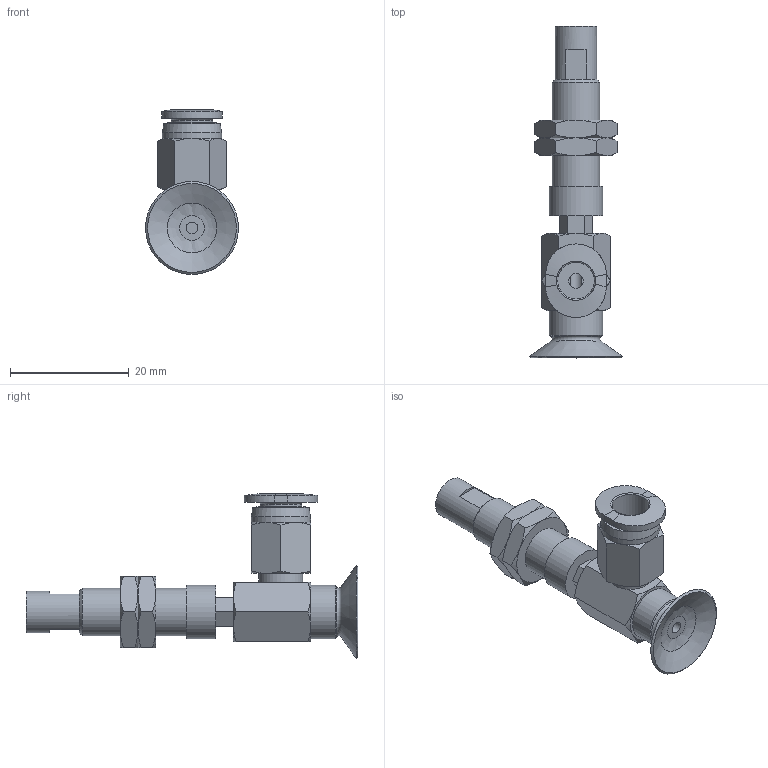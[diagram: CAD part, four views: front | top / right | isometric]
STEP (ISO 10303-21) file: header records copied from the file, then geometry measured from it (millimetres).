
FILE_DESCRIPTION(('STEP AP203'),'1');
FILE_NAME('-O.stp','2025-04-10T07:31:18',(' '),(' '),'Spatial InterOp 3D',' ',' ');
FILE_SCHEMA(('CONFIG_CONTROL_DESIGN'));
Length unit declared in the file: millimetre
Products named in the file (7): BNABPFYH-15A-3-※-O; CONNECTOR-H-15A-3; Nut-15A-3-h; NAPFTH-15A-3-FBODY; NAPFTH-15A-3-MBODY; BPFG-15A-※; PC-C_06-M5
Assembly tree (7 placements, depth 2):
  BNABPFYH-15A-3-※-O
    CONNECTOR-H-15A-3
    Nut-15A-3-h  x2
    NAPFTH-15A-3-FBODY
    NAPFTH-15A-3-MBODY
    BPFG-15A-※
    PC-C_06-M5
Bounding box: 15.7 x 56 x 27.83 mm (x, y, z)
Volume: 3498.5 mm3; surface area: 5386.8 mm2
Topology: 6 solids, 9 shells, 190 faces, 403 edges, 245 vertices
Faces by surface type: plane 80, cone 67, cylinder 24, torus 11, bspline 5, revolution 3
Full cylindrical faces by diameter (mm): 2 x2, 4 x4, 4.134 x2, 5 x2, 6 x2, 7 x2, 7.188 x2, 7.4 x1, 8 x1, 8.2 x1, 9 x2, 10 x1
Entity records: 4979 total; most frequent: CARTESIAN_POINT 1401, DIRECTION 663, ORIENTED_EDGE 586, EDGE_CURVE 295, AXIS2_PLACEMENT_3D 283, EDGE_LOOP 244, VERTEX_POINT 207, FACE_OUTER_BOUND 140
